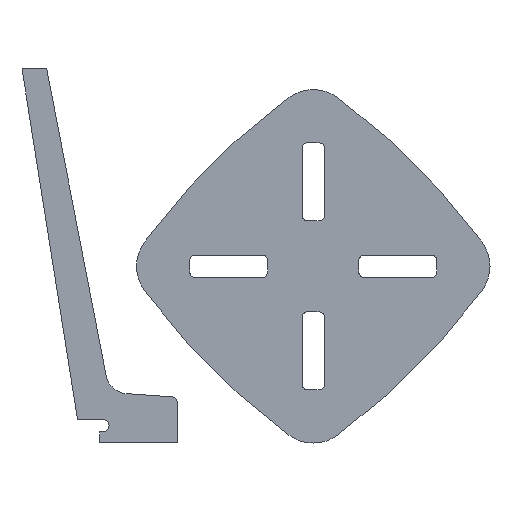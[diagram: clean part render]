
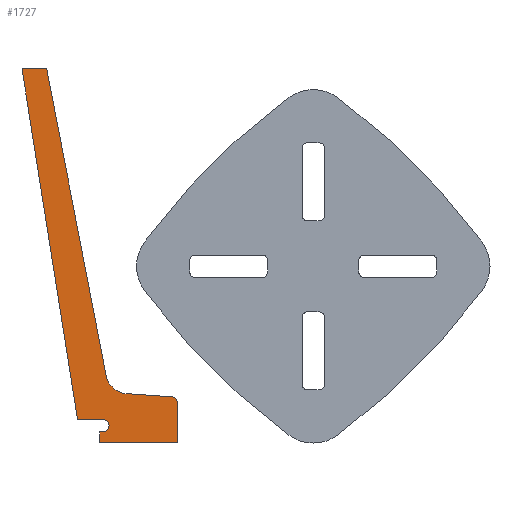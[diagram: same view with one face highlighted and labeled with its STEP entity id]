
A CAD part, front view. The second image highlights one B-rep face of the part: STEP entity #1727.
In plain terms, the highlighted planar face has unit normal (0, -1, 0).
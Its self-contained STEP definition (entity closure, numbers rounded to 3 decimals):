
#6 = DIRECTION ( 'NONE',  ( 0., 0., 1. ) ) ;
#42 = VERTEX_POINT ( 'NONE', #1269 ) ;
#71 = EDGE_CURVE ( 'NONE', #973, #1575, #807, .T. ) ;
#108 = DIRECTION ( 'NONE',  ( 0., 1., 0. ) ) ;
#174 = CARTESIAN_POINT ( 'NONE',  ( -354.743, 143.125, 240.357 ) ) ;
#175 = DIRECTION ( 'NONE',  ( 0., 0., 1. ) ) ;
#176 = CARTESIAN_POINT ( 'NONE',  ( -256.243, 143.125, -201.643 ) ) ;
#231 = CIRCLE ( 'NONE', #388, 7.5 ) ;
#235 = DIRECTION ( 'NONE',  ( 0., 0., 1. ) ) ;
#302 = LINE ( 'NONE', #176, #1181 ) ;
#351 = CARTESIAN_POINT ( 'NONE',  ( -165.243, 143.125, -214.643 ) ) ;
#379 = ORIENTED_EDGE ( 'NONE', *, *, #396, .F. ) ;
#388 = AXIS2_PLACEMENT_3D ( 'NONE', #1777, #1070, #6 ) ;
#396 = EDGE_CURVE ( 'NONE', #451, #955, #856, .T. ) ;
#402 = EDGE_CURVE ( 'NONE', #1575, #884, #692, .T. ) ;
#416 = VECTOR ( 'NONE', #429, 1000. ) ;
#429 = DIRECTION ( 'NONE',  ( 0.998, 0., -0.07 ) ) ;
#451 = VERTEX_POINT ( 'NONE', #743 ) ;
#532 = DIRECTION ( 'NONE',  ( 0., 0., -1. ) ) ;
#547 = PLANE ( 'NONE',  #1134 ) ;
#549 = ORIENTED_EDGE ( 'NONE', *, *, #1532, .F. ) ;
#557 = CARTESIAN_POINT ( 'NONE',  ( -354.743, 143.125, 240.357 ) ) ;
#600 = DIRECTION ( 'NONE',  ( 1., 0., 0. ) ) ;
#626 = EDGE_CURVE ( 'NONE', #955, #1289, #1382, .T. ) ;
#629 = CARTESIAN_POINT ( 'NONE',  ( -227.874, 143.125, -155.055 ) ) ;
#641 = EDGE_LOOP ( 'NONE', ( #707, #1454, #1310, #1051, #1907, #939, #1138, #1344, #1023, #379, #1721, #549 ) ) ;
#672 = CARTESIAN_POINT ( 'NONE',  ( -287.088, 143.125, -186.643 ) ) ;
#692 = LINE ( 'NONE', #1342, #1159 ) ;
#707 = ORIENTED_EDGE ( 'NONE', *, *, #402, .F. ) ;
#712 = DIRECTION ( 'NONE',  ( 0., 0., -1. ) ) ;
#732 = CIRCLE ( 'NONE', #1774, 8. ) ;
#743 = CARTESIAN_POINT ( 'NONE',  ( -256.243, 143.125, -186.643 ) ) ;
#745 = CARTESIAN_POINT ( 'NONE',  ( -172.685, 143.125, -158.914 ) ) ;
#807 = LINE ( 'NONE', #1895, #1163 ) ;
#808 = DIRECTION ( 'NONE',  ( 0., 1., 0. ) ) ;
#813 = CARTESIAN_POINT ( 'NONE',  ( -256.243, 143.125, -194.143 ) ) ;
#815 = EDGE_CURVE ( 'NONE', #1607, #973, #1198, .T. ) ;
#816 = CARTESIAN_POINT ( 'NONE',  ( -173.243, 143.125, -166.894 ) ) ;
#842 = AXIS2_PLACEMENT_3D ( 'NONE', #1001, #853, #1602 ) ;
#850 = VERTEX_POINT ( 'NONE', #1645 ) ;
#853 = DIRECTION ( 'NONE',  ( 0., -1., 0. ) ) ;
#856 = LINE ( 'NONE', #1802, #1597 ) ;
#876 = VECTOR ( 'NONE', #1672, 1000. ) ;
#884 = VERTEX_POINT ( 'NONE', #886 ) ;
#886 = CARTESIAN_POINT ( 'NONE',  ( -260.243, 143.125, -201.643 ) ) ;
#894 = EDGE_CURVE ( 'NONE', #1707, #451, #231, .T. ) ;
#933 = VERTEX_POINT ( 'NONE', #1822 ) ;
#939 = ORIENTED_EDGE ( 'NONE', *, *, #1827, .F. ) ;
#950 = CARTESIAN_POINT ( 'NONE',  ( -324.743, 143.125, 240.357 ) ) ;
#955 = VERTEX_POINT ( 'NONE', #1074 ) ;
#973 = VERTEX_POINT ( 'NONE', #351 ) ;
#983 = CARTESIAN_POINT ( 'NONE',  ( -256.243, 143.125, -201.643 ) ) ;
#996 = LINE ( 'NONE', #745, #416 ) ;
#1001 = CARTESIAN_POINT ( 'NONE',  ( -226.025, 143.125, -128.619 ) ) ;
#1013 = CIRCLE ( 'NONE', #842, 26.5 ) ;
#1023 = ORIENTED_EDGE ( 'NONE', *, *, #626, .F. ) ;
#1047 = EDGE_CURVE ( 'NONE', #850, #933, #1259, .T. ) ;
#1051 = ORIENTED_EDGE ( 'NONE', *, *, #1120, .F. ) ;
#1070 = DIRECTION ( 'NONE',  ( 0., -1., 0. ) ) ;
#1074 = CARTESIAN_POINT ( 'NONE',  ( -287.088, 143.125, -186.643 ) ) ;
#1104 = CARTESIAN_POINT ( 'NONE',  ( -165.243, 143.125, -166.894 ) ) ;
#1120 = EDGE_CURVE ( 'NONE', #42, #1607, #732, .T. ) ;
#1134 = AXIS2_PLACEMENT_3D ( 'NONE', #813, #108, #235 ) ;
#1138 = ORIENTED_EDGE ( 'NONE', *, *, #1047, .F. ) ;
#1159 = VECTOR ( 'NONE', #175, 1000. ) ;
#1163 = VECTOR ( 'NONE', #1276, 1000. ) ;
#1181 = VECTOR ( 'NONE', #600, 1000. ) ;
#1198 = LINE ( 'NONE', #1596, #1540 ) ;
#1203 = DIRECTION ( 'NONE',  ( 1., 0., 0. ) ) ;
#1259 = LINE ( 'NONE', #950, #876 ) ;
#1269 = CARTESIAN_POINT ( 'NONE',  ( -172.685, 143.125, -158.914 ) ) ;
#1276 = DIRECTION ( 'NONE',  ( -1., 0., 0. ) ) ;
#1289 = VERTEX_POINT ( 'NONE', #557 ) ;
#1310 = ORIENTED_EDGE ( 'NONE', *, *, #815, .F. ) ;
#1336 = LINE ( 'NONE', #174, #1690 ) ;
#1342 = CARTESIAN_POINT ( 'NONE',  ( -260.243, 143.125, -214.643 ) ) ;
#1344 = ORIENTED_EDGE ( 'NONE', *, *, #1481, .F. ) ;
#1382 = LINE ( 'NONE', #672, #1494 ) ;
#1388 = EDGE_CURVE ( 'NONE', #1629, #42, #996, .T. ) ;
#1454 = ORIENTED_EDGE ( 'NONE', *, *, #71, .F. ) ;
#1481 = EDGE_CURVE ( 'NONE', #1289, #850, #1336, .T. ) ;
#1494 = VECTOR ( 'NONE', #1850, 1000. ) ;
#1532 = EDGE_CURVE ( 'NONE', #884, #1707, #302, .T. ) ;
#1540 = VECTOR ( 'NONE', #712, 1000. ) ;
#1575 = VERTEX_POINT ( 'NONE', #1825 ) ;
#1596 = CARTESIAN_POINT ( 'NONE',  ( -165.243, 143.125, -166.894 ) ) ;
#1597 = VECTOR ( 'NONE', #1627, 1000. ) ;
#1602 = DIRECTION ( 'NONE',  ( 0., 0., 1. ) ) ;
#1607 = VERTEX_POINT ( 'NONE', #1104 ) ;
#1627 = DIRECTION ( 'NONE',  ( -1., 0., 0. ) ) ;
#1629 = VERTEX_POINT ( 'NONE', #629 ) ;
#1645 = CARTESIAN_POINT ( 'NONE',  ( -324.743, 143.125, 240.357 ) ) ;
#1672 = DIRECTION ( 'NONE',  ( 0.191, 0., -0.982 ) ) ;
#1690 = VECTOR ( 'NONE', #1203, 1000. ) ;
#1707 = VERTEX_POINT ( 'NONE', #983 ) ;
#1721 = ORIENTED_EDGE ( 'NONE', *, *, #894, .F. ) ;
#1727 = ADVANCED_FACE ( 'NONE', ( #1807 ), #547, .F. ) ;
#1774 = AXIS2_PLACEMENT_3D ( 'NONE', #816, #808, #532 ) ;
#1777 = CARTESIAN_POINT ( 'NONE',  ( -256.243, 143.125, -194.143 ) ) ;
#1802 = CARTESIAN_POINT ( 'NONE',  ( -260.243, 143.125, -186.643 ) ) ;
#1807 = FACE_OUTER_BOUND ( 'NONE', #641, .T. ) ;
#1822 = CARTESIAN_POINT ( 'NONE',  ( -252.038, 143.125, -133.676 ) ) ;
#1825 = CARTESIAN_POINT ( 'NONE',  ( -260.243, 143.125, -214.643 ) ) ;
#1827 = EDGE_CURVE ( 'NONE', #933, #1629, #1013, .T. ) ;
#1850 = DIRECTION ( 'NONE',  ( -0.156, 0., 0.988 ) ) ;
#1895 = CARTESIAN_POINT ( 'NONE',  ( -165.243, 143.125, -214.643 ) ) ;
#1907 = ORIENTED_EDGE ( 'NONE', *, *, #1388, .F. ) ;
